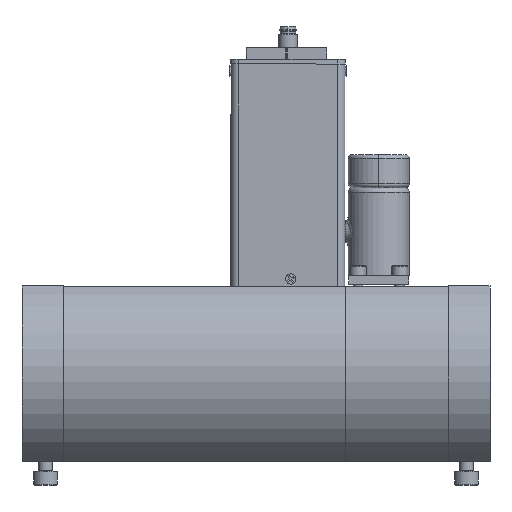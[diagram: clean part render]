
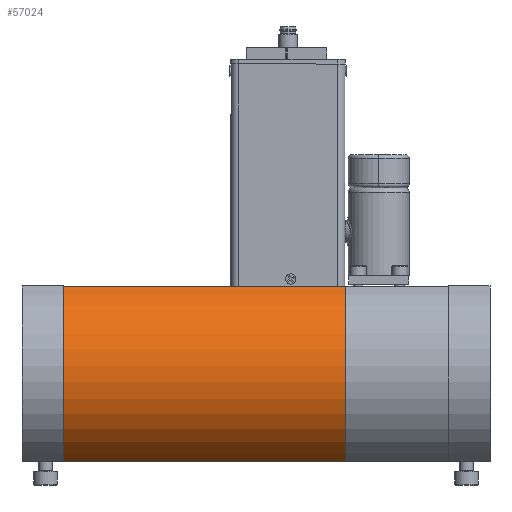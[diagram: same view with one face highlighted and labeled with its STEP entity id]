
A CAD part, front view. The second image highlights one B-rep face of the part: STEP entity #57024.
In plain terms, the highlighted cylindrical face has radius 42 mm (diameter 84 mm), a partial arc.
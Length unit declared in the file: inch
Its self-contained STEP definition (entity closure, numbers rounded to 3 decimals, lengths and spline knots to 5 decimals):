
#5874 = VERTEX_POINT ( 'NONE', #137602 ) ;
#19149 = CIRCLE ( 'NONE', #162202, 1.65354 ) ;
#20855 = DIRECTION ( 'NONE',  ( -1., 0., 0. ) ) ;
#21105 = LINE ( 'NONE', #138345, #84194 ) ;
#22089 = ORIENTED_EDGE ( 'NONE', *, *, #143939, .T. ) ;
#34826 = AXIS2_PLACEMENT_3D ( 'NONE', #108533, #63832, #176918 ) ;
#38689 = ORIENTED_EDGE ( 'NONE', *, *, #108443, .T. ) ;
#47600 = CARTESIAN_POINT ( 'NONE',  ( 1.99617, -0.02996, 1.485 ) ) ;
#50195 = CARTESIAN_POINT ( 'NONE',  ( -2.72824, 0.73011, 0.0165 ) ) ;
#55919 = CARTESIAN_POINT ( 'NONE',  ( -2.72824, -0.02996, 1.485 ) ) ;
#57024 = ADVANCED_FACE ( 'NONE', ( #109964 ), #151832, .T. ) ;
#63832 = DIRECTION ( 'NONE',  ( -1., 0., 0. ) ) ;
#69208 = CARTESIAN_POINT ( 'NONE',  ( -2.72824, -0.02996, -1.45201 ) ) ;
#84194 = VECTOR ( 'NONE', #95596, 39.37008 ) ;
#85566 = AXIS2_PLACEMENT_3D ( 'NONE', #128101, #101718, #155443 ) ;
#87485 = LINE ( 'NONE', #145727, #132270 ) ;
#95596 = DIRECTION ( 'NONE',  ( 1., 0., 0. ) ) ;
#96296 = VERTEX_POINT ( 'NONE', #55919 ) ;
#96364 = EDGE_CURVE ( 'NONE', #96296, #151617, #21105, .T. ) ;
#101718 = DIRECTION ( 'NONE',  ( 1., 0., 0. ) ) ;
#106756 = DIRECTION ( 'NONE',  ( 1., 0., 0. ) ) ;
#108443 = EDGE_CURVE ( 'NONE', #5874, #151617, #151232, .T. ) ;
#108533 = CARTESIAN_POINT ( 'NONE',  ( 1.99617, 0.73011, 0.0165 ) ) ;
#109964 = FACE_OUTER_BOUND ( 'NONE', #145250, .T. ) ;
#124710 = VERTEX_POINT ( 'NONE', #69208 ) ;
#128101 = CARTESIAN_POINT ( 'NONE',  ( -2.72824, 0.73011, 0.0165 ) ) ;
#132270 = VECTOR ( 'NONE', #20855, 39.37008 ) ;
#137602 = CARTESIAN_POINT ( 'NONE',  ( 1.99617, -0.02996, -1.45201 ) ) ;
#138345 = CARTESIAN_POINT ( 'NONE',  ( -2.72824, -0.02996, 1.485 ) ) ;
#143148 = ORIENTED_EDGE ( 'NONE', *, *, #167678, .F. ) ;
#143939 = EDGE_CURVE ( 'NONE', #96296, #124710, #19149, .T. ) ;
#145250 = EDGE_LOOP ( 'NONE', ( #143148, #38689, #162133, #22089 ) ) ;
#145727 = CARTESIAN_POINT ( 'NONE',  ( -2.72824, -0.02996, -1.45201 ) ) ;
#148589 = DIRECTION ( 'NONE',  ( 0., 0., 1. ) ) ;
#151232 = CIRCLE ( 'NONE', #34826, 1.65354 ) ;
#151617 = VERTEX_POINT ( 'NONE', #47600 ) ;
#151832 = CYLINDRICAL_SURFACE ( 'NONE', #85566, 1.65354 ) ;
#155443 = DIRECTION ( 'NONE',  ( 0., 0., 1. ) ) ;
#162133 = ORIENTED_EDGE ( 'NONE', *, *, #96364, .F. ) ;
#162202 = AXIS2_PLACEMENT_3D ( 'NONE', #50195, #106756, #148589 ) ;
#167678 = EDGE_CURVE ( 'NONE', #5874, #124710, #87485, .T. ) ;
#176918 = DIRECTION ( 'NONE',  ( 0., 0., -1. ) ) ;
